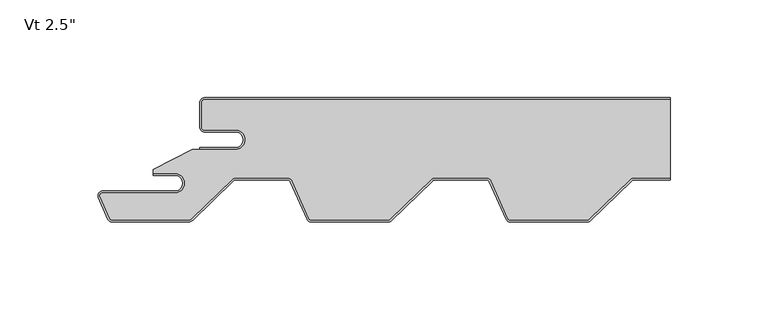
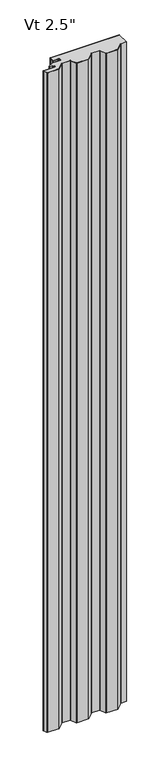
"""IFC4 building model written with IfcOpenShell, lengths in millimetres: plate geometry."""

from ifc_helpers import new_model, si_unit, point, frame_2d, origin, origin_with_axes, place, context, project, spatial, polyline, circle_curve, trimmed, segment, composite_curve, outline, extrude, source, transform, mapped, element, save


def plate_4f0dd49a(model_context):
    return source(origin(), model_context, "Body", "SweptSolid", [
        extrude(outline(composite_curve([segment(trimmed(circle_curve(frame_2d((-101.3499998, -21.4324412)), 4.96875), [point((-101.3499998, -26.4011912))], [point((-101.3499998, -16.4636912))], True, "CARTESIAN"), True, "CONTINUOUS"), segment(polyline([(-101.3499998, -16.4636912), (-117.2249998, -16.4636912)]), True, "CONTINUOUS"), segment(trimmed(circle_curve(frame_2d((-117.2249998, -15.0824412)), 1.38125), [point((-117.2249998, -16.4636912))], [point((-118.6062498, -15.0824412))], False, "CARTESIAN"), True, "CONTINUOUS"), segment(polyline([(-118.6062498, -15.0824412), (-118.6062498, -2.3824412)]), True, "CONTINUOUS"), segment(trimmed(circle_curve(frame_2d((-117.2249998, -2.3824412)), 1.38125), [point((-118.6062498, -2.3824412))], [point((-117.2249998, -1.0011912))], False, "CARTESIAN"), True, "CONTINUOUS"), segment(polyline([(-117.2249998, -1.0011912), (120.3999998, -1.0011912), (120.3999998, -40.9862), (101.8679504, -40.9862)]), True, "CONTINUOUS"), segment(trimmed(circle_curve(frame_2d((101.8679504, -43.5737)), 2.5875), [point((101.8679504, -40.9862))], [point((100.0682998, -41.7145567))], True, "CARTESIAN"), True, "CONTINUOUS"), segment(polyline([(100.0682998, -41.7145567), (78.9973964, -62.1111912)]), True, "CONTINUOUS"), segment(trimmed(circle_curve(frame_2d((78.0367133, -61.11875)), 1.38125), [point((78.9973964, -62.1111912))], [point((78.0367133, -62.5))], False, "CARTESIAN"), True, "CONTINUOUS"), segment(polyline([(78.0367133, -62.5), (38.9000059, -62.5)]), True, "CONTINUOUS"), segment(trimmed(circle_curve(frame_2d((38.9000059, -61.11875)), 1.38125), [point((38.9000059, -62.5))], [point((37.6370056, -61.6779296))], False, "CARTESIAN"), True, "CONTINUOUS"), segment(polyline([(37.6370056, -61.6779296), (29.1577807, -42.5261871)]), True, "CONTINUOUS"), segment(trimmed(circle_curve(frame_2d((26.7917983, -43.5737)), 2.5875), [point((29.1577807, -42.5261871))], [point((26.7917983, -40.9862))], True, "CARTESIAN"), True, "CONTINUOUS"), segment(polyline([(26.7917983, -40.9862), (0.2679504, -40.9862)]), True, "CONTINUOUS"), segment(trimmed(circle_curve(frame_2d((0.2679504, -43.5737)), 2.5875), [point((0.2679504, -40.9862))], [point((-1.5317002, -41.7145567))], True, "CARTESIAN"), True, "CONTINUOUS"), segment(polyline([(-1.5317002, -41.7145567), (-22.6026036, -62.1111912)]), True, "CONTINUOUS"), segment(trimmed(circle_curve(frame_2d((-23.5632867, -61.11875)), 1.38125), [point((-22.6026036, -62.1111912))], [point((-23.5632867, -62.5))], False, "CARTESIAN"), True, "CONTINUOUS"), segment(polyline([(-23.5632867, -62.5), (-62.6999941, -62.5)]), True, "CONTINUOUS"), segment(trimmed(circle_curve(frame_2d((-62.6999941, -61.11875)), 1.38125), [point((-62.6999941, -62.5))], [point((-63.9629944, -61.6779296))], False, "CARTESIAN"), True, "CONTINUOUS"), segment(polyline([(-63.9629944, -61.6779296), (-72.4422193, -42.5261871)]), True, "CONTINUOUS"), segment(trimmed(circle_curve(frame_2d((-74.8082017, -43.5737)), 2.5875), [point((-72.4422193, -42.5261871))], [point((-74.8082017, -40.9862))], True, "CARTESIAN"), True, "CONTINUOUS"), segment(polyline([(-74.8082017, -40.9862), (-101.3320496, -40.9862)]), True, "CONTINUOUS"), segment(trimmed(circle_curve(frame_2d((-101.3320496, -43.5737)), 2.5875), [point((-101.3320496, -40.9862))], [point((-103.1317002, -41.7145567))], True, "CARTESIAN"), True, "CONTINUOUS"), segment(polyline([(-103.1317002, -41.7145567), (-123.993943, -61.9092077)]), True, "CONTINUOUS"), segment(trimmed(circle_curve(frame_2d((-125.4536944, -60.4012)), 2.0988), [point((-123.993943, -61.9092077))], [point((-125.4536944, -62.5))], False, "CARTESIAN"), True, "CONTINUOUS"), segment(polyline([(-125.4536944, -62.5), (-164.2999941, -62.5)]), True, "CONTINUOUS"), segment(trimmed(circle_curve(frame_2d((-164.2999941, -61.11875)), 1.38125), [point((-164.2999941, -62.5))], [point((-165.5629944, -61.6779296))], False, "CARTESIAN"), True, "CONTINUOUS"), segment(polyline([(-165.5629944, -61.6779296), (-170.4824051, -50.5666208)]), True, "CONTINUOUS"), segment(trimmed(circle_curve(frame_2d((-169.2194048, -50.0074412)), 1.38125), [point((-170.4824051, -50.5666208))], [point((-169.2194048, -48.6261912))], False, "CARTESIAN"), True, "CONTINUOUS"), segment(polyline([(-169.2194048, -48.6261912), (-132.3062498, -48.6261912)]), True, "CONTINUOUS"), segment(trimmed(circle_curve(frame_2d((-132.3062498, -43.6574412)), 4.96875), [point((-132.3062498, -48.6261912))], [point((-132.3062498, -38.6886912))], True, "CARTESIAN"), True, "CONTINUOUS"), segment(polyline([(-132.3062498, -38.6886912), (-143.4187498, -38.6886912), (-143.4187498, -36.533822), (-123.597661, -26.4011912), (-101.3499998, -26.4011912)]), True, "CONTINUOUS")], self_intersect=False)), origin_with_axes(), (0.0, 0.0, 1.0), 2400.0),
        extrude(outline(composite_curve([segment(polyline([(-119.6062498, -25.4), (-101.3499998, -25.4)]), True, "CONTINUOUS"), segment(trimmed(circle_curve(frame_2d((-101.3499998, -21.43125)), 3.96875), [point((-101.3499998, -25.4))], [point((-101.3499998, -17.4625))], True, "CARTESIAN"), True, "CONTINUOUS"), segment(polyline([(-101.3499998, -17.4625), (-117.2249998, -17.4625)]), True, "CONTINUOUS"), segment(trimmed(circle_curve(frame_2d((-117.2249998, -15.08125)), 2.38125), [point((-117.2249998, -17.4625))], [point((-119.6062498, -15.08125))], False, "CARTESIAN"), True, "CONTINUOUS"), segment(polyline([(-119.6062498, -15.08125), (-119.6062498, -2.38125)]), True, "CONTINUOUS"), segment(trimmed(circle_curve(frame_2d((-117.2249998, -2.38125)), 2.38125), [point((-119.6062498, -2.38125))], [point((-117.2249998, 0.0))], False, "CARTESIAN"), True, "CONTINUOUS"), segment(polyline([(-117.2249998, 0.0), (120.3999998, 0.0), (120.3999998, -1.0), (-117.2249998, -1.0)]), True, "CONTINUOUS"), segment(trimmed(circle_curve(frame_2d((-117.2249998, -2.38125)), 1.38125), [point((-117.2249998, -1.0))], [point((-118.6062498, -2.38125))], True, "CARTESIAN"), True, "CONTINUOUS"), segment(polyline([(-118.6062498, -2.38125), (-118.6062498, -15.08125)]), True, "CONTINUOUS"), segment(trimmed(circle_curve(frame_2d((-117.2249998, -15.08125)), 1.38125), [point((-118.6062498, -15.08125))], [point((-117.2249998, -16.4625))], True, "CARTESIAN"), True, "CONTINUOUS"), segment(polyline([(-117.2249998, -16.4625), (-101.3499998, -16.4625)]), True, "CONTINUOUS"), segment(trimmed(circle_curve(frame_2d((-101.3499998, -21.43125)), 4.96875), [point((-101.3499998, -16.4625))], [point((-101.3499998, -26.4))], False, "CARTESIAN"), True, "CONTINUOUS"), segment(polyline([(-101.3499998, -26.4), (-119.6062498, -26.4), (-119.6062498, -25.4)]), True, "CONTINUOUS")], self_intersect=False)), origin_with_axes(), (0.0, 0.0, 1.0), 2400.0),
        extrude(outline(composite_curve([segment(trimmed(circle_curve(frame_2d((-132.3062498, -43.6574412)), 3.96875), [point((-132.3062498, -47.6261912))], [point((-132.3062498, -39.6886912))], True, "CARTESIAN"), True, "CONTINUOUS"), segment(polyline([(-132.3062498, -39.6886912), (-143.4187498, -39.6886912), (-143.4187498, -38.6886912), (-132.3062498, -38.6886912)]), True, "CONTINUOUS"), segment(trimmed(circle_curve(frame_2d((-132.3062498, -43.6574412)), 4.96875), [point((-132.3062498, -38.6886912))], [point((-132.3062498, -48.6261912))], False, "CARTESIAN"), True, "CONTINUOUS"), segment(polyline([(-132.3062498, -48.6261912), (-169.2194048, -48.6261912)]), True, "CONTINUOUS"), segment(trimmed(circle_curve(frame_2d((-169.2194048, -50.0074412)), 1.38125), [point((-169.2194048, -48.6261912))], [point((-170.4824051, -50.5666208))], True, "CARTESIAN"), True, "CONTINUOUS"), segment(polyline([(-170.4824051, -50.5666208), (-165.5629944, -61.6779296)]), True, "CONTINUOUS"), segment(trimmed(circle_curve(frame_2d((-164.2999941, -61.11875)), 1.38125), [point((-165.5629944, -61.6779296))], [point((-164.2999941, -62.5))], True, "CARTESIAN"), True, "CONTINUOUS"), segment(polyline([(-164.2999941, -62.5), (-125.4536944, -62.5)]), True, "CONTINUOUS"), segment(trimmed(circle_curve(frame_2d((-125.4536944, -60.4012)), 2.0988), [point((-125.4536944, -62.5))], [point((-123.993943, -61.9092077))], True, "CARTESIAN"), True, "CONTINUOUS"), segment(polyline([(-123.993943, -61.9092077), (-103.1317002, -41.7145567)]), True, "CONTINUOUS"), segment(trimmed(circle_curve(frame_2d((-101.3320496, -43.5737)), 2.5875), [point((-103.1317002, -41.7145567))], [point((-101.3320496, -40.9862))], False, "CARTESIAN"), True, "CONTINUOUS"), segment(polyline([(-101.3320496, -40.9862), (-74.8082017, -40.9862)]), True, "CONTINUOUS"), segment(trimmed(circle_curve(frame_2d((-74.8082017, -43.5737)), 2.5875), [point((-74.8082017, -40.9862))], [point((-72.4422193, -42.5261871))], False, "CARTESIAN"), True, "CONTINUOUS"), segment(polyline([(-72.4422193, -42.5261871), (-63.9629944, -61.6779296)]), True, "CONTINUOUS"), segment(trimmed(circle_curve(frame_2d((-62.6999941, -61.11875)), 1.38125), [point((-63.9629944, -61.6779296))], [point((-62.6999941, -62.5))], True, "CARTESIAN"), True, "CONTINUOUS"), segment(polyline([(-62.6999941, -62.5), (-23.5632867, -62.5)]), True, "CONTINUOUS"), segment(trimmed(circle_curve(frame_2d((-23.5632867, -61.11875)), 1.38125), [point((-23.5632867, -62.5))], [point((-22.6026036, -62.1111912))], True, "CARTESIAN"), True, "CONTINUOUS"), segment(polyline([(-22.6026036, -62.1111912), (-1.5317002, -41.7145567)]), True, "CONTINUOUS"), segment(trimmed(circle_curve(frame_2d((0.2679504, -43.5737)), 2.5875), [point((-1.5317002, -41.7145567))], [point((0.2679504, -40.9862))], False, "CARTESIAN"), True, "CONTINUOUS"), segment(polyline([(0.2679504, -40.9862), (26.7917983, -40.9862)]), True, "CONTINUOUS"), segment(trimmed(circle_curve(frame_2d((26.7917983, -43.5737)), 2.5875), [point((26.7917983, -40.9862))], [point((29.1577807, -42.5261871))], False, "CARTESIAN"), True, "CONTINUOUS"), segment(polyline([(29.1577807, -42.5261871), (37.6370056, -61.6779296)]), True, "CONTINUOUS"), segment(trimmed(circle_curve(frame_2d((38.9000059, -61.11875)), 1.38125), [point((37.6370056, -61.6779296))], [point((38.9000059, -62.5))], True, "CARTESIAN"), True, "CONTINUOUS"), segment(polyline([(38.9000059, -62.5), (78.0367133, -62.5)]), True, "CONTINUOUS"), segment(trimmed(circle_curve(frame_2d((78.0367133, -61.11875)), 1.38125), [point((78.0367133, -62.5))], [point((78.9973964, -62.1111912))], True, "CARTESIAN"), True, "CONTINUOUS"), segment(polyline([(78.9973964, -62.1111912), (100.0682998, -41.7145567)]), True, "CONTINUOUS"), segment(trimmed(circle_curve(frame_2d((101.8679504, -43.5737)), 2.5875), [point((100.0682998, -41.7145567))], [point((101.8679504, -40.9862))], False, "CARTESIAN"), True, "CONTINUOUS"), segment(polyline([(101.8679504, -40.9862), (120.3999998, -40.9862), (120.3999998, -41.9862), (101.8679504, -41.9862)]), True, "CONTINUOUS"), segment(trimmed(circle_curve(frame_2d((101.8679504, -43.5737)), 1.5875), [point((101.8679504, -41.9862))], [point((100.7638169, -42.4330662))], True, "CARTESIAN"), True, "CONTINUOUS"), segment(polyline([(100.7638169, -42.4330662), (79.6929135, -62.8297007)]), True, "CONTINUOUS"), segment(trimmed(circle_curve(frame_2d((78.0367133, -61.11875)), 2.38125), [point((79.6929135, -62.8297007))], [point((78.0367133, -63.5))], False, "CARTESIAN"), True, "CONTINUOUS"), segment(polyline([(78.0367133, -63.5), (38.9000059, -63.5)]), True, "CONTINUOUS"), segment(trimmed(circle_curve(frame_2d((38.9000059, -61.11875)), 2.38125), [point((38.9000059, -63.5))], [point((36.7226162, -62.0827655))], False, "CARTESIAN"), True, "CONTINUOUS"), segment(polyline([(36.7226162, -62.0827655), (28.2433914, -42.931023)]), True, "CONTINUOUS"), segment(trimmed(circle_curve(frame_2d((26.7917983, -43.5737)), 1.5875), [point((28.2433914, -42.931023))], [point((26.7917983, -41.9862))], True, "CARTESIAN"), True, "CONTINUOUS"), segment(polyline([(26.7917983, -41.9862), (0.2679504, -41.9862)]), True, "CONTINUOUS"), segment(trimmed(circle_curve(frame_2d((0.2679504, -43.5737)), 1.5875), [point((0.2679504, -41.9862))], [point((-0.8361831, -42.4330662))], True, "CARTESIAN"), True, "CONTINUOUS"), segment(polyline([(-0.8361831, -42.4330662), (-21.9070865, -62.8297007)]), True, "CONTINUOUS"), segment(trimmed(circle_curve(frame_2d((-23.5632867, -61.11875)), 2.38125), [point((-21.9070865, -62.8297007))], [point((-23.5632867, -63.5))], False, "CARTESIAN"), True, "CONTINUOUS"), segment(polyline([(-23.5632867, -63.5), (-62.6999941, -63.5)]), True, "CONTINUOUS"), segment(trimmed(circle_curve(frame_2d((-62.6999941, -61.11875)), 2.38125), [point((-62.6999941, -63.5))], [point((-64.8773838, -62.0827655))], False, "CARTESIAN"), True, "CONTINUOUS"), segment(polyline([(-64.8773838, -62.0827655), (-73.3566086, -42.931023)]), True, "CONTINUOUS"), segment(trimmed(circle_curve(frame_2d((-74.8082017, -43.5737)), 1.5875), [point((-73.3566086, -42.931023))], [point((-74.8082017, -41.9862))], True, "CARTESIAN"), True, "CONTINUOUS"), segment(polyline([(-74.8082017, -41.9862), (-101.3320496, -41.9862)]), True, "CONTINUOUS"), segment(trimmed(circle_curve(frame_2d((-101.3320496, -43.5737)), 1.5875), [point((-101.3320496, -41.9862))], [point((-102.4361831, -42.4330662))], True, "CARTESIAN"), True, "CONTINUOUS"), segment(polyline([(-102.4361831, -42.4330662), (-123.2984258, -62.6277172)]), True, "CONTINUOUS"), segment(trimmed(circle_curve(frame_2d((-125.4536944, -60.4012)), 3.0988), [point((-123.2984258, -62.6277172))], [point((-125.4536944, -63.5))], False, "CARTESIAN"), True, "CONTINUOUS"), segment(polyline([(-125.4536944, -63.5), (-164.2999941, -63.5)]), True, "CONTINUOUS"), segment(trimmed(circle_curve(frame_2d((-164.2999941, -61.11875)), 2.38125), [point((-164.2999941, -63.5))], [point((-166.4773838, -62.0827655))], False, "CARTESIAN"), True, "CONTINUOUS"), segment(polyline([(-166.4773838, -62.0827655), (-171.3967944, -50.9714567)]), True, "CONTINUOUS"), segment(trimmed(circle_curve(frame_2d((-169.2194048, -50.0074412)), 2.38125), [point((-171.3967944, -50.9714567))], [point((-169.2194048, -47.6261912))], False, "CARTESIAN"), True, "CONTINUOUS"), segment(polyline([(-169.2194048, -47.6261912), (-132.3062498, -47.6261912)]), True, "CONTINUOUS")], self_intersect=False)), origin_with_axes(), (0.0, 0.0, 1.0), 2400.0),
    ])


if __name__ == "__main__":
    model = new_model("IFC4")
    model_context = context("Model", 3, world=origin())
    ifc_project = project(units=[si_unit("LENGTHUNIT", "METRE", prefix="MILLI")], contexts=[model_context])
    site = spatial("IfcSite", under=ifc_project)
    building = spatial("IfcBuilding", under=site)
    placement = place(None, origin())
    plate_shape = plate_4f0dd49a(model_context)
    element("IfcPlate", 1, ObjectType="KIP-12-DWR-R19-CP-Vt-S : Vt 2.5\"", at=placement, inside=building, context=model_context, shape_type="MappedRepresentation", body=[
        mapped(plate_shape, transform((0.0, 0.0, 0.0), x_axis=(1.0, 0.0, 0.0), y_axis=(0.0, 1.0, 0.0), z_axis=(0.0, 0.0, 1.0))),
    ])
    save(model, "model.ifc")
